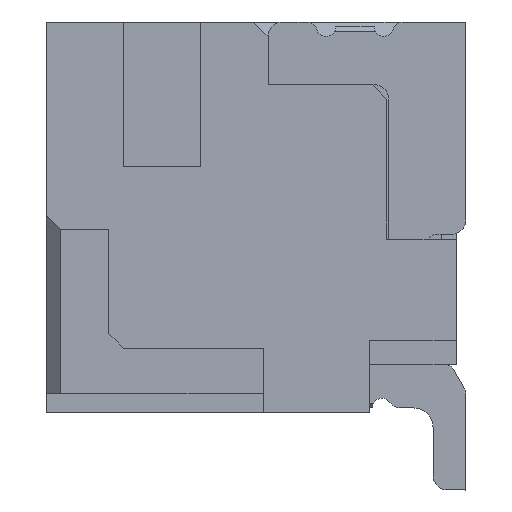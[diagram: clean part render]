
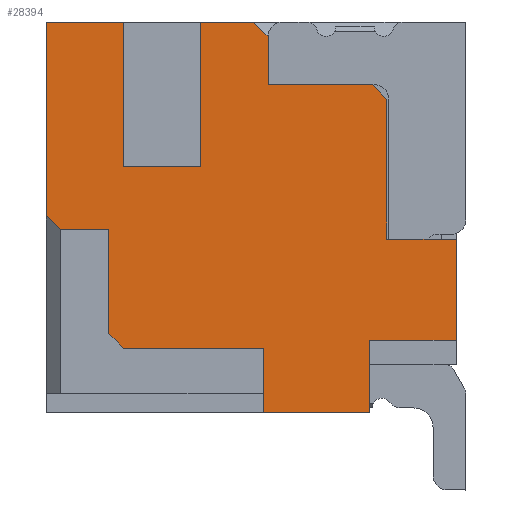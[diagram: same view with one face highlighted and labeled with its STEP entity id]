
A CAD part, left-side view. The second image highlights one B-rep face of the part: STEP entity #28394.
In plain terms, the highlighted planar face has unit normal (-1, 0, 0).
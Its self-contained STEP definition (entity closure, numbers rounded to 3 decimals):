
#1329=DIRECTION('',(0.,-1.,0.));
#1330=VECTOR('',#1329,0.55);
#1331=CARTESIAN_POINT('',(-1.25,2.75,
0.));
#1332=LINE('',#1331,#1330);
#1345=DIRECTION('',(0.,-1.,0.));
#1346=VECTOR('',#1345,0.8);
#1347=CARTESIAN_POINT('',(-1.25,4.35,
0.));
#1348=LINE('',#1347,#1346);
#1897=DIRECTION('',(0.,0.,-1.));
#1898=VECTOR('',#1897,1.05);
#1899=CARTESIAN_POINT('',(-1.25,0.1,-2.25));
#1900=LINE('',#1899,#1898);
#2403=DIRECTION('',(0.,1.,0.));
#2404=VECTOR('',#2403,1.1);
#2405=CARTESIAN_POINT('',(-1.25,1.,-4.05));
#2406=LINE('',#2405,#2404);
#2755=DIRECTION('',(0.,-1.,0.));
#2756=VECTOR('',#2755,0.9);
#2757=CARTESIAN_POINT('',(-1.25,1.,-3.3));
#2758=LINE('',#2757,#2756);
#2759=DIRECTION('',(0.,0.,-1.));
#2760=VECTOR('',#2759,0.67);
#2761=CARTESIAN_POINT('',(-1.25,2.1,-3.38));
#2762=LINE('',#2761,#2760);
#2763=DIRECTION('',(0.,-1.,0.));
#2764=VECTOR('',#2763,1.45);
#2765=CARTESIAN_POINT('',(-1.25,3.55,-3.38));
#2766=LINE('',#2765,#2764);
#2767=DIRECTION('',(0.,-0.707,-0.707));
#2768=VECTOR('',#2767,0.212);
#2769=CARTESIAN_POINT('',(-1.25,3.7,-3.23));
#2770=LINE('',#2769,#2768);
#2771=DIRECTION('',(0.,0.,-1.));
#2772=VECTOR('',#2771,1.08);
#2773=CARTESIAN_POINT('',(-1.25,3.7,-2.15));
#2774=LINE('',#2773,#2772);
#2775=DIRECTION('',(0.,-1.,0.));
#2776=VECTOR('',#2775,0.5);
#2777=CARTESIAN_POINT('',(-1.25,4.2,-2.15));
#2778=LINE('',#2777,#2776);
#2779=DIRECTION('',(0.,-0.707,-0.707));
#2780=VECTOR('',#2779,0.212);
#2781=CARTESIAN_POINT('',(-1.25,4.35,-2.));
#2782=LINE('',#2781,#2780);
#2783=DIRECTION('',(0.,0.,-1.));
#2784=VECTOR('',#2783,2.);
#2785=CARTESIAN_POINT('',(-1.25,4.35,
0.));
#2786=LINE('',#2785,#2784);
#2787=DIRECTION('',(0.,0.,1.));
#2788=VECTOR('',#2787,1.5);
#2789=CARTESIAN_POINT('',(-1.25,3.55,-1.5));
#2790=LINE('',#2789,#2788);
#2791=DIRECTION('',(0.,1.,0.));
#2792=VECTOR('',#2791,0.8);
#2793=CARTESIAN_POINT('',(-1.25,2.75,-1.5));
#2794=LINE('',#2793,#2792);
#2795=DIRECTION('',(0.,0.,-1.));
#2796=VECTOR('',#2795,1.5);
#2797=CARTESIAN_POINT('',(-1.25,2.75,
0.));
#2798=LINE('',#2797,#2796);
#2799=DIRECTION('',(0.,0.707,0.707));
#2800=VECTOR('',#2799,0.212);
#2801=CARTESIAN_POINT('',(-1.25,2.05,
-0.15));
#2802=LINE('',#2801,#2800);
#2803=DIRECTION('',(0.,0.707,0.707));
#2804=VECTOR('',#2803,0.212);
#2805=CARTESIAN_POINT('',(-1.25,0.82,
-0.8));
#2806=LINE('',#2805,#2804);
#2807=DIRECTION('',(0.,0.,1.));
#2808=VECTOR('',#2807,1.45);
#2809=CARTESIAN_POINT('',(-1.25,0.82,-2.25));
#2810=LINE('',#2809,#2808);
#2811=DIRECTION('',(0.,1.,0.));
#2812=VECTOR('',#2811,0.72);
#2813=CARTESIAN_POINT('',(-1.25,0.1,-2.25));
#2814=LINE('',#2813,#2812);
#2823=DIRECTION('',(0.,0.,-1.));
#2824=VECTOR('',#2823,0.75);
#2825=CARTESIAN_POINT('',(-1.25,1.,-3.3));
#2826=LINE('',#2825,#2824);
#18986=DIRECTION('',(0.,0.,-1.));
#18987=VECTOR('',#18986,0.5);
#18988=CARTESIAN_POINT('',(-1.25,2.05,
-0.15));
#18989=LINE('',#18988,#18987);
#19513=DIRECTION('',(0.,-1.,0.));
#19514=VECTOR('',#19513,1.08);
#19515=CARTESIAN_POINT('',(-1.25,2.05,
-0.65));
#19516=LINE('',#19515,#19514);
#23753=CARTESIAN_POINT('',(-1.25,0.1,-2.25));
#23754=VERTEX_POINT('',#23753);
#23755=CARTESIAN_POINT('',(-1.25,0.1,-3.3));
#23756=VERTEX_POINT('',#23755);
#23759=CARTESIAN_POINT('',(-1.25,4.35,
0.));
#23760=CARTESIAN_POINT('',(-1.25,3.55,
0.));
#23761=VERTEX_POINT('',#23759);
#23762=VERTEX_POINT('',#23760);
#23767=CARTESIAN_POINT('',(-1.25,2.75,
0.));
#23768=VERTEX_POINT('',#23767);
#23769=CARTESIAN_POINT('',(-1.25,2.2,
0.));
#23770=VERTEX_POINT('',#23769);
#24079=CARTESIAN_POINT('',(-1.25,1.,-4.05));
#24080=VERTEX_POINT('',#24079);
#24081=CARTESIAN_POINT('',(-1.25,2.1,-4.05));
#24082=VERTEX_POINT('',#24081);
#24635=CARTESIAN_POINT('',(-1.25,1.,-3.3));
#24636=VERTEX_POINT('',#24635);
#24637=CARTESIAN_POINT('',(-1.25,0.82,-2.25));
#24638=VERTEX_POINT('',#24637);
#24639=CARTESIAN_POINT('',(-1.25,0.82,
-0.8));
#24640=VERTEX_POINT('',#24639);
#24641=CARTESIAN_POINT('',(-1.25,0.97,
-0.65));
#24642=VERTEX_POINT('',#24641);
#24643=CARTESIAN_POINT('',(-1.25,2.05,
-0.65));
#24644=VERTEX_POINT('',#24643);
#24645=CARTESIAN_POINT('',(-1.25,2.05,
-0.15));
#24646=VERTEX_POINT('',#24645);
#24647=CARTESIAN_POINT('',(-1.25,2.75,-1.5));
#24648=VERTEX_POINT('',#24647);
#24649=CARTESIAN_POINT('',(-1.25,3.55,-1.5));
#24650=VERTEX_POINT('',#24649);
#24651=CARTESIAN_POINT('',(-1.25,4.35,-2.));
#24652=VERTEX_POINT('',#24651);
#24653=CARTESIAN_POINT('',(-1.25,4.2,-2.15));
#24654=VERTEX_POINT('',#24653);
#24655=CARTESIAN_POINT('',(-1.25,3.7,-2.15));
#24656=VERTEX_POINT('',#24655);
#24657=CARTESIAN_POINT('',(-1.25,3.7,-3.23));
#24658=VERTEX_POINT('',#24657);
#24659=CARTESIAN_POINT('',(-1.25,3.55,-3.38));
#24660=VERTEX_POINT('',#24659);
#24661=CARTESIAN_POINT('',(-1.25,2.1,-3.38));
#24662=VERTEX_POINT('',#24661);
#28348=CARTESIAN_POINT('',(-1.25,2.225,-2.025));
#28349=DIRECTION('',(1.,0.,0.));
#28350=DIRECTION('',(0.,1.,0.));
#28351=AXIS2_PLACEMENT_3D('',#28348,#28349,#28350);
#28352=PLANE('',#28351);
#28354=ORIENTED_EDGE('',*,*,#28353,.F.);
#28356=ORIENTED_EDGE('',*,*,#28355,.T.);
#28357=ORIENTED_EDGE('',*,*,#27972,.T.);
#28359=ORIENTED_EDGE('',*,*,#28358,.F.);
#28361=ORIENTED_EDGE('',*,*,#28360,.F.);
#28363=ORIENTED_EDGE('',*,*,#28362,.F.);
#28365=ORIENTED_EDGE('',*,*,#28364,.F.);
#28367=ORIENTED_EDGE('',*,*,#28366,.F.);
#28369=ORIENTED_EDGE('',*,*,#28368,.F.);
#28370=ORIENTED_EDGE('',*,*,#28324,.F.);
#28371=ORIENTED_EDGE('',*,*,#27058,.T.);
#28373=ORIENTED_EDGE('',*,*,#28372,.F.);
#28375=ORIENTED_EDGE('',*,*,#28374,.F.);
#28377=ORIENTED_EDGE('',*,*,#28376,.F.);
#28378=ORIENTED_EDGE('',*,*,#27050,.T.);
#28380=ORIENTED_EDGE('',*,*,#28379,.F.);
#28382=ORIENTED_EDGE('',*,*,#28381,.T.);
#28384=ORIENTED_EDGE('',*,*,#28383,.T.);
#28386=ORIENTED_EDGE('',*,*,#28385,.F.);
#28388=ORIENTED_EDGE('',*,*,#28387,.F.);
#28390=ORIENTED_EDGE('',*,*,#28389,.F.);
#28391=ORIENTED_EDGE('',*,*,#27381,.T.);
#28392=EDGE_LOOP('',(#28354,#28356,#28357,#28359,#28361,#28363,#28365,#28367,
#28369,#28370,#28371,#28373,#28375,#28377,#28378,#28380,#28382,#28384,#28386,
#28388,#28390,#28391));
#28393=FACE_OUTER_BOUND('',#28392,.F.);
#27050=EDGE_CURVE('',#23768,#23770,#1332,.T.);
#27058=EDGE_CURVE('',#23761,#23762,#1348,.T.);
#27381=EDGE_CURVE('',#23754,#23756,#1900,.T.);
#27972=EDGE_CURVE('',#24080,#24082,#2406,.T.);
#28324=EDGE_CURVE('',#23761,#24652,#2786,.T.);
#28353=EDGE_CURVE('',#24636,#23756,#2758,.T.);
#28355=EDGE_CURVE('',#24636,#24080,#2826,.T.);
#28358=EDGE_CURVE('',#24662,#24082,#2762,.T.);
#28360=EDGE_CURVE('',#24660,#24662,#2766,.T.);
#28362=EDGE_CURVE('',#24658,#24660,#2770,.T.);
#28364=EDGE_CURVE('',#24656,#24658,#2774,.T.);
#28366=EDGE_CURVE('',#24654,#24656,#2778,.T.);
#28368=EDGE_CURVE('',#24652,#24654,#2782,.T.);
#28372=EDGE_CURVE('',#24650,#23762,#2790,.T.);
#28374=EDGE_CURVE('',#24648,#24650,#2794,.T.);
#28376=EDGE_CURVE('',#23768,#24648,#2798,.T.);
#28379=EDGE_CURVE('',#24646,#23770,#2802,.T.);
#28381=EDGE_CURVE('',#24646,#24644,#18989,.T.);
#28383=EDGE_CURVE('',#24644,#24642,#19516,.T.);
#28385=EDGE_CURVE('',#24640,#24642,#2806,.T.);
#28387=EDGE_CURVE('',#24638,#24640,#2810,.T.);
#28389=EDGE_CURVE('',#23754,#24638,#2814,.T.);
#28394=ADVANCED_FACE('',(#28393),#28352,.F.);
